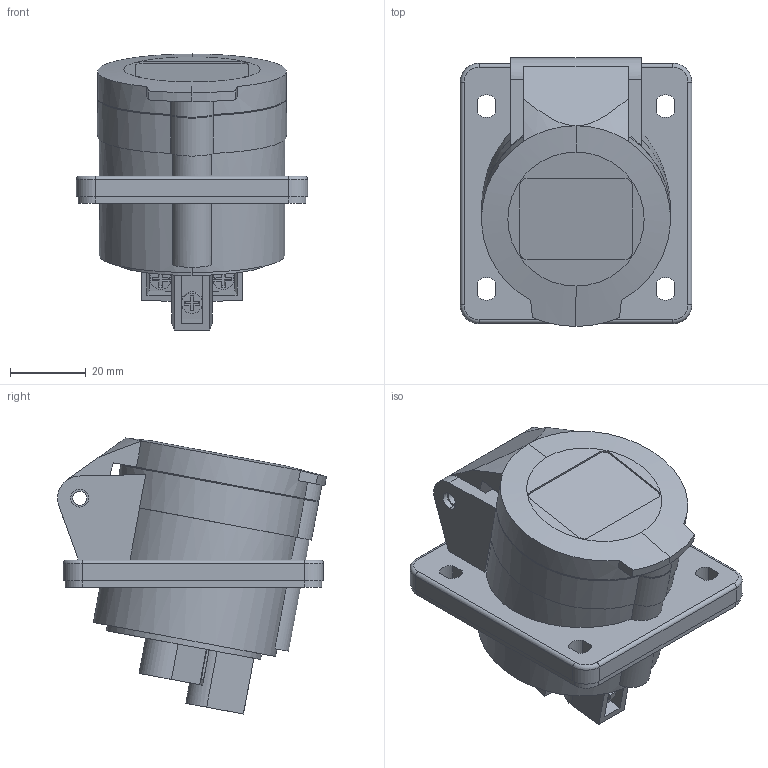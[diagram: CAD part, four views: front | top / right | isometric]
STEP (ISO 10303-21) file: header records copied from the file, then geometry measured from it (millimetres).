
FILE_DESCRIPTION (( 'STEP AP203' ), '1' );
FILE_NAME ('TLI16432.STEP', '2018-04-05T20:55:42', ( '' ), ( '' ), 'SwSTEP 2.0', 'SolidWorks 2012', '' );
FILE_SCHEMA (( 'CONFIG_CONTROL_DESIGN' ));
Length unit declared in the file: millimetre
Products named in the file (1): TLI16432
Bounding box: 61.2 x 71.08 x 72.95 mm (x, y, z)
Volume: 128436.3 mm3; surface area: 23659.5 mm2
Topology: 1 solids, 1 shells, 249 faces, 651 edges, 428 vertices
Faces by surface type: plane 150, cylinder 91, cone 4, torus 4
Entity records: 7930 total; most frequent: CARTESIAN_POINT 1559, DIRECTION 1317, ORIENTED_EDGE 1302, EDGE_CURVE 651, AXIS2_PLACEMENT_3D 440, LINE 437, VECTOR 437, VERTEX_POINT 428
